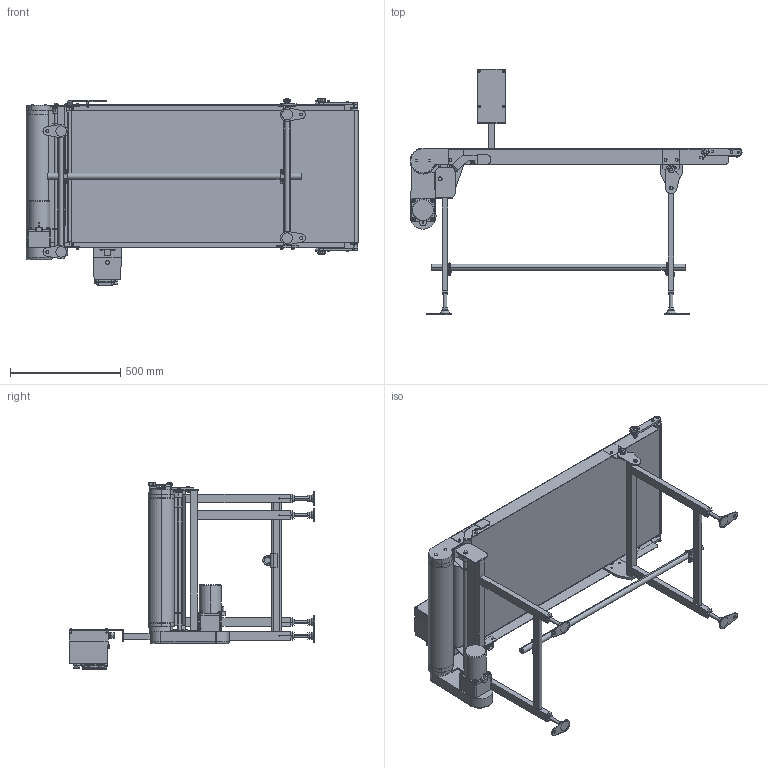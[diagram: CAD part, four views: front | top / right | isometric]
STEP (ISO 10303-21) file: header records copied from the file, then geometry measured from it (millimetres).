
FILE_DESCRIPTION (( 'STEP AP214' ), '1' );
FILE_NAME ('TBH-UD-309-600-150-R-IV-60.STEP', '2023-05-11T00:40:47', ( '' ), ( '' ), 'SwSTEP 2.0', 'SolidWorks 2017', '' );
FILE_SCHEMA (( 'AUTOMOTIVE_DESIGN' ));
Length unit declared in the file: millimetre
Products named in the file (1): TBH-UD-309-600-150-R-IV-60
Bounding box: 1505 x 1111 x 849.6 mm (x, y, z)
Volume: 26130204.4 mm3; surface area: 8172047 mm2
Topology: 78 solids, 78 shells, 2487 faces, 6011 edges, 3819 vertices
Faces by surface type: plane 1353, cylinder 720, cone 176, bspline 148, torus 80, sphere 10
Entity records: 78541 total; most frequent: CARTESIAN_POINT 19337, DIRECTION 12218, ORIENTED_EDGE 11974, EDGE_CURVE 5987, AXIS2_PLACEMENT_3D 4367, VERTEX_POINT 3819, LINE 3484, VECTOR 3484
